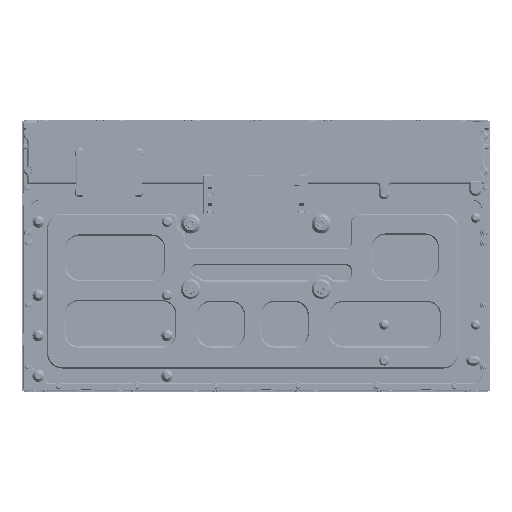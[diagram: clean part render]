
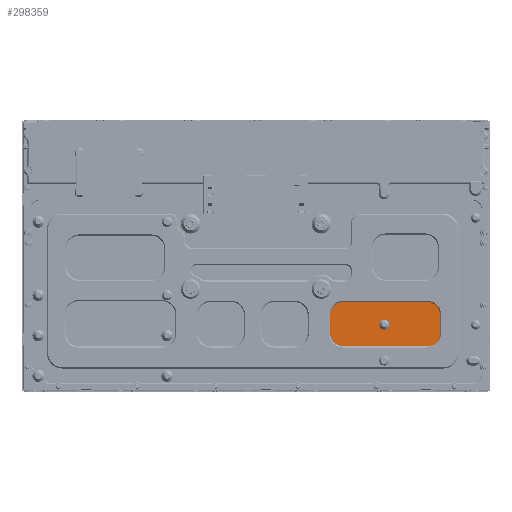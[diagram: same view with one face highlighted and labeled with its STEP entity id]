
A CAD part, front view. The second image highlights one B-rep face of the part: STEP entity #298359.
In plain terms, the highlighted planar face has unit normal (0, -1, 0).
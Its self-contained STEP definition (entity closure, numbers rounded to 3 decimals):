
#246043=CARTESIAN_POINT('',(133.5,-8.15,-88.));
#246044=DIRECTION('',(0.,1.,0.));
#246045=DIRECTION('',(-1.,0.,0.));
#246046=AXIS2_PLACEMENT_3D('',#246043,#246044,#246045);
#246048=DIRECTION('',(1.,0.,0.));
#246049=VECTOR('',#246048,128.);
#246050=CARTESIAN_POINT('',(133.5,-8.15,
-68.));
#246051=LINE('',#246050,#246049);
#246052=CARTESIAN_POINT('',(261.5,-8.15,-88.));
#246053=DIRECTION('',(0.,1.,0.));
#246054=DIRECTION('',(0.,0.,1.));
#246055=AXIS2_PLACEMENT_3D('',#246052,#246053,#246054);
#246057=DIRECTION('',(0.,0.,-1.));
#246058=VECTOR('',#246057,28.);
#246059=CARTESIAN_POINT('',(281.5,-8.15,
-88.));
#246060=LINE('',#246059,#246058);
#246061=CARTESIAN_POINT('',(261.5,-8.15,-116.));
#246062=DIRECTION('',(0.,1.,0.));
#246063=DIRECTION('',(1.,0.,0.));
#246064=AXIS2_PLACEMENT_3D('',#246061,#246062,#246063);
#246066=DIRECTION('',(-1.,0.,0.));
#246067=VECTOR('',#246066,128.);
#246068=CARTESIAN_POINT('',(261.5,-8.15,
-136.));
#246069=LINE('',#246068,#246067);
#246070=CARTESIAN_POINT('',(133.5,-8.15,-116.));
#246071=DIRECTION('',(0.,1.,0.));
#246072=DIRECTION('',(0.,0.,-1.));
#246073=AXIS2_PLACEMENT_3D('',#246070,#246071,#246072);
#246075=DIRECTION('',(0.,0.,1.));
#246076=VECTOR('',#246075,28.);
#246077=CARTESIAN_POINT('',(113.5,-8.15,
-116.));
#246078=LINE('',#246077,#246076);
#246079=CARTESIAN_POINT('',(196.1,-8.15,-102.85));
#246080=DIRECTION('',(0.,-1.,0.));
#246081=DIRECTION('',(-1.,0.,0.));
#246082=AXIS2_PLACEMENT_3D('',#246079,#246080,#246081);
#246084=CARTESIAN_POINT('',(196.1,-8.15,-102.85));
#246085=DIRECTION('',(0.,-1.,0.));
#246086=DIRECTION('',(0.,0.,-1.));
#246087=AXIS2_PLACEMENT_3D('',#246084,#246085,#246086);
#246089=CARTESIAN_POINT('',(196.1,-8.15,-102.85));
#246090=DIRECTION('',(0.,-1.,0.));
#246091=DIRECTION('',(1.,0.,0.));
#246092=AXIS2_PLACEMENT_3D('',#246089,#246090,#246091);
#246094=CARTESIAN_POINT('',(196.1,-8.15,-102.85));
#246095=DIRECTION('',(0.,-1.,0.));
#246096=DIRECTION('',(0.,0.,1.));
#246097=AXIS2_PLACEMENT_3D('',#246094,#246095,#246096);
#262346=CARTESIAN_POINT('',(133.5,-8.15,
-68.));
#262347=VERTEX_POINT('',#262346);
#262348=CARTESIAN_POINT('',(113.5,-8.15,-88.));
#262349=VERTEX_POINT('',#262348);
#262350=CARTESIAN_POINT('',(261.5,-8.15,
-68.));
#262351=VERTEX_POINT('',#262350);
#262352=CARTESIAN_POINT('',(281.5,-8.15,
-88.));
#262353=VERTEX_POINT('',#262352);
#262354=CARTESIAN_POINT('',(281.5,-8.15,
-116.));
#262355=VERTEX_POINT('',#262354);
#262356=CARTESIAN_POINT('',(261.5,-8.15,
-136.));
#262357=VERTEX_POINT('',#262356);
#262358=CARTESIAN_POINT('',(133.5,-8.15,
-136.));
#262359=VERTEX_POINT('',#262358);
#262360=CARTESIAN_POINT('',(113.5,-8.15,
-116.));
#262361=VERTEX_POINT('',#262360);
#262362=CARTESIAN_POINT('',(188.6,-8.15,-102.85));
#262363=CARTESIAN_POINT('',(196.1,-8.15,-110.35));
#262364=VERTEX_POINT('',#262362);
#262365=VERTEX_POINT('',#262363);
#262366=CARTESIAN_POINT('',(203.6,-8.15,-102.85));
#262367=VERTEX_POINT('',#262366);
#262368=CARTESIAN_POINT('',(196.1,-8.15,-95.35));
#262369=VERTEX_POINT('',#262368);
#298334=CARTESIAN_POINT('',(0.,-8.15,0.));
#298335=DIRECTION('',(0.,-1.,0.));
#298336=DIRECTION('',(-1.,0.,0.));
#298337=AXIS2_PLACEMENT_3D('',#298334,#298335,#298336);
#298338=PLANE('',#298337);
#298339=ORIENTED_EDGE('',*,*,#298230,.T.);
#298340=ORIENTED_EDGE('',*,*,#298245,.T.);
#298341=ORIENTED_EDGE('',*,*,#298259,.T.);
#298342=ORIENTED_EDGE('',*,*,#298273,.T.);
#298343=ORIENTED_EDGE('',*,*,#298287,.T.);
#298344=ORIENTED_EDGE('',*,*,#298301,.T.);
#298345=ORIENTED_EDGE('',*,*,#298315,.T.);
#298346=ORIENTED_EDGE('',*,*,#298328,.T.);
#298347=EDGE_LOOP('',(#298339,#298340,#298341,#298342,#298343,#298344,#298345,
#298346));
#298348=FACE_OUTER_BOUND('',#298347,.F.);
#298350=ORIENTED_EDGE('',*,*,#298349,.T.);
#298352=ORIENTED_EDGE('',*,*,#298351,.T.);
#298354=ORIENTED_EDGE('',*,*,#298353,.T.);
#298356=ORIENTED_EDGE('',*,*,#298355,.T.);
#298357=EDGE_LOOP('',(#298350,#298352,#298354,#298356));
#298358=FACE_BOUND('',#298357,.F.);
#298359=ADVANCED_FACE('',(#298348,#298358),#298338,.T.);
#246047=CIRCLE('',#246046,20.);
#246056=CIRCLE('',#246055,20.);
#246065=CIRCLE('',#246064,20.);
#246074=CIRCLE('',#246073,20.);
#246083=CIRCLE('',#246082,7.5);
#246088=CIRCLE('',#246087,7.5);
#246093=CIRCLE('',#246092,7.5);
#246098=CIRCLE('',#246097,7.5);
#298230=EDGE_CURVE('',#262349,#262347,#246047,.T.);
#298245=EDGE_CURVE('',#262347,#262351,#246051,.T.);
#298259=EDGE_CURVE('',#262351,#262353,#246056,.T.);
#298273=EDGE_CURVE('',#262353,#262355,#246060,.T.);
#298287=EDGE_CURVE('',#262355,#262357,#246065,.T.);
#298301=EDGE_CURVE('',#262357,#262359,#246069,.T.);
#298315=EDGE_CURVE('',#262359,#262361,#246074,.T.);
#298328=EDGE_CURVE('',#262361,#262349,#246078,.T.);
#298349=EDGE_CURVE('',#262364,#262365,#246083,.T.);
#298351=EDGE_CURVE('',#262365,#262367,#246088,.T.);
#298353=EDGE_CURVE('',#262367,#262369,#246093,.T.);
#298355=EDGE_CURVE('',#262369,#262364,#246098,.T.);
